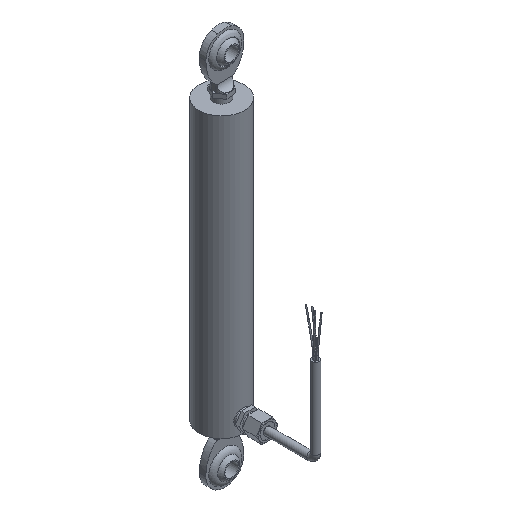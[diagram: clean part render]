
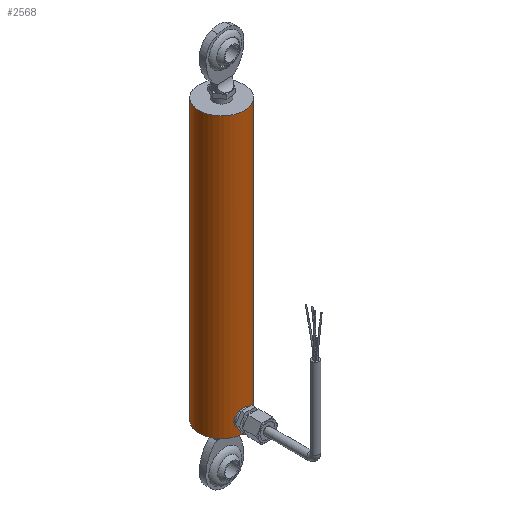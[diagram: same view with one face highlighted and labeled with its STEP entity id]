
A CAD part, isometric view. The second image highlights one B-rep face of the part: STEP entity #2568.
In plain terms, the highlighted cylindrical face has radius 13.335 mm (diameter 26.67 mm), a full revolution.
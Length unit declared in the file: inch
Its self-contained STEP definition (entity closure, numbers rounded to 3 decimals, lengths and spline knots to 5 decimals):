
#101=B_SPLINE_CURVE_WITH_KNOTS('',3,(#6590,#6591,#6592,#6593,#6594,#6595,
#6596,#6597,#6598,#6599),.UNSPECIFIED.,.F.,.F.,(4,2,2,2,4),(0.,0.19357,
0.38715,0.58056,0.77398),.UNSPECIFIED.);
#102=B_SPLINE_CURVE_WITH_KNOTS('',3,(#6600,#6601,#6602,#6603,#6604,#6605,
#6606,#6607,#6608,#6609),.UNSPECIFIED.,.F.,.F.,(4,2,2,2,4),(2.32194,
2.51535,2.70877,2.90234,3.09591),
 .UNSPECIFIED.);
#103=B_SPLINE_CURVE_WITH_KNOTS('',3,(#6611,#6612,#6613,#6614,#6615,#6616,
#6617,#6618,#6619,#6620,#6621,#6622,#6623,#6624,#6625,#6626,#6627,#6628),
 .UNSPECIFIED.,.F.,.F.,(4,2,2,2,2,2,2,2,4),(0.77398,0.96739,
1.16081,1.35438,1.54796,1.74153,1.93511,
2.12852,2.32194),.UNSPECIFIED.);
#160=CYLINDRICAL_SURFACE('',#2977,0.525);
#204=FACE_BOUND('',#593,.T.);
#275=CIRCLE('',#2978,0.525);
#276=CIRCLE('',#2979,0.525);
#424=FACE_OUTER_BOUND('',#592,.T.);
#592=EDGE_LOOP('',(#1910,#1911,#1912,#1913));
#593=EDGE_LOOP('',(#1914,#1915,#1916));
#779=LINE('',#6634,#924);
#924=VECTOR('',#3516,0.525);
#1096=VERTEX_POINT('',#6583);
#1097=VERTEX_POINT('',#6585);
#1098=VERTEX_POINT('',#6589);
#1099=VERTEX_POINT('',#6631);
#1100=VERTEX_POINT('',#6633);
#1388=EDGE_CURVE('',#1098,#1096,#101,.T.);
#1389=EDGE_CURVE('',#1097,#1098,#102,.T.);
#1390=EDGE_CURVE('',#1096,#1097,#103,.T.);
#1391=EDGE_CURVE('',#1099,#1099,#275,.T.);
#1392=EDGE_CURVE('',#1099,#1100,#779,.T.);
#1393=EDGE_CURVE('',#1100,#1100,#276,.T.);
#1910=ORIENTED_EDGE('',*,*,#1391,.F.);
#1911=ORIENTED_EDGE('',*,*,#1392,.T.);
#1912=ORIENTED_EDGE('',*,*,#1393,.T.);
#1913=ORIENTED_EDGE('',*,*,#1392,.F.);
#1914=ORIENTED_EDGE('',*,*,#1388,.T.);
#1915=ORIENTED_EDGE('',*,*,#1390,.T.);
#1916=ORIENTED_EDGE('',*,*,#1389,.T.);
#2568=ADVANCED_FACE('',(#424,#204),#160,.T.);
#2977=AXIS2_PLACEMENT_3D('',#6630,#3512,#3513);
#2978=AXIS2_PLACEMENT_3D('',#6632,#3514,#3515);
#2979=AXIS2_PLACEMENT_3D('',#6635,#3517,#3518);
#3512=DIRECTION('center_axis',(0.,0.,
1.));
#3513=DIRECTION('ref_axis',(-1.,0.,0.));
#3514=DIRECTION('center_axis',(0.,0.,
1.));
#3515=DIRECTION('ref_axis',(-1.,0.,0.));
#3516=DIRECTION('',(0.,0.,-1.));
#3517=DIRECTION('center_axis',(0.,0.,
1.));
#3518=DIRECTION('ref_axis',(-1.,0.,0.));
#6583=CARTESIAN_POINT('',(0.,-0.525,0.11847));
#6585=CARTESIAN_POINT('',(0.,-0.525,0.51847));
#6589=CARTESIAN_POINT('',(0.2,-0.48541,0.31847));
#6590=CARTESIAN_POINT('Ctrl Pts',(0.2,-0.48541,0.31847));
#6591=CARTESIAN_POINT('Ctrl Pts',(0.2,-0.48541,0.29307));
#6592=CARTESIAN_POINT('Ctrl Pts',(0.19487,-0.48762,
0.26617));
#6593=CARTESIAN_POINT('Ctrl Pts',(0.17439,-0.49531,
0.21699));
#6594=CARTESIAN_POINT('Ctrl Pts',(0.15904,-0.50066,
0.19467));
#6595=CARTESIAN_POINT('Ctrl Pts',(0.12381,-0.51052,
0.15944));
#6596=CARTESIAN_POINT('Ctrl Pts',(0.10149,-0.5157,
0.14409));
#6597=CARTESIAN_POINT('Ctrl Pts',(0.05229,-0.52298,
0.1236));
#6598=CARTESIAN_POINT('Ctrl Pts',(0.02538,-0.525,0.11847));
#6599=CARTESIAN_POINT('Ctrl Pts',(0.,-0.525,0.11847));
#6600=CARTESIAN_POINT('Ctrl Pts',(0.,-0.525,0.51847));
#6601=CARTESIAN_POINT('Ctrl Pts',(0.02538,-0.525,0.51847));
#6602=CARTESIAN_POINT('Ctrl Pts',(0.05229,-0.52298,
0.51335));
#6603=CARTESIAN_POINT('Ctrl Pts',(0.10149,-0.5157,
0.49285));
#6604=CARTESIAN_POINT('Ctrl Pts',(0.12381,-0.51052,
0.4775));
#6605=CARTESIAN_POINT('Ctrl Pts',(0.15904,-0.50066,
0.44227));
#6606=CARTESIAN_POINT('Ctrl Pts',(0.17439,-0.49531,
0.41996));
#6607=CARTESIAN_POINT('Ctrl Pts',(0.19487,-0.48762,
0.37077));
#6608=CARTESIAN_POINT('Ctrl Pts',(0.2,-0.48541,0.34388));
#6609=CARTESIAN_POINT('Ctrl Pts',(0.2,-0.48541,0.31847));
#6611=CARTESIAN_POINT('Ctrl Pts',(0.,-0.525,0.11847));
#6612=CARTESIAN_POINT('Ctrl Pts',(-0.02538,-0.525,0.11847));
#6613=CARTESIAN_POINT('Ctrl Pts',(-0.05229,-0.52298,
0.1236));
#6614=CARTESIAN_POINT('Ctrl Pts',(-0.10149,-0.5157,
0.14409));
#6615=CARTESIAN_POINT('Ctrl Pts',(-0.12381,-0.51052,
0.15944));
#6616=CARTESIAN_POINT('Ctrl Pts',(-0.15904,-0.50066,
0.19467));
#6617=CARTESIAN_POINT('Ctrl Pts',(-0.17439,-0.49531,
0.21699));
#6618=CARTESIAN_POINT('Ctrl Pts',(-0.19487,-0.48762,
0.26617));
#6619=CARTESIAN_POINT('Ctrl Pts',(-0.2,-0.48541,0.29307));
#6620=CARTESIAN_POINT('Ctrl Pts',(-0.2,-0.48541,0.34388));
#6621=CARTESIAN_POINT('Ctrl Pts',(-0.19487,-0.48762,
0.37077));
#6622=CARTESIAN_POINT('Ctrl Pts',(-0.17439,-0.49531,
0.41996));
#6623=CARTESIAN_POINT('Ctrl Pts',(-0.15904,-0.50066,
0.44227));
#6624=CARTESIAN_POINT('Ctrl Pts',(-0.12381,-0.51052,
0.4775));
#6625=CARTESIAN_POINT('Ctrl Pts',(-0.10149,-0.5157,
0.49285));
#6626=CARTESIAN_POINT('Ctrl Pts',(-0.05229,-0.52298,
0.51335));
#6627=CARTESIAN_POINT('Ctrl Pts',(-0.02538,-0.525,0.51847));
#6628=CARTESIAN_POINT('Ctrl Pts',(0.,-0.525,0.51847));
#6630=CARTESIAN_POINT('Origin',(0.,0.,0.));
#6631=CARTESIAN_POINT('',(0.525,0.,6.5));
#6632=CARTESIAN_POINT('Origin',(0.,0.,
6.5));
#6633=CARTESIAN_POINT('',(0.525,0.,0.));
#6634=CARTESIAN_POINT('',(0.525,0.,0.));
#6635=CARTESIAN_POINT('Origin',(0.,0.,0.));
